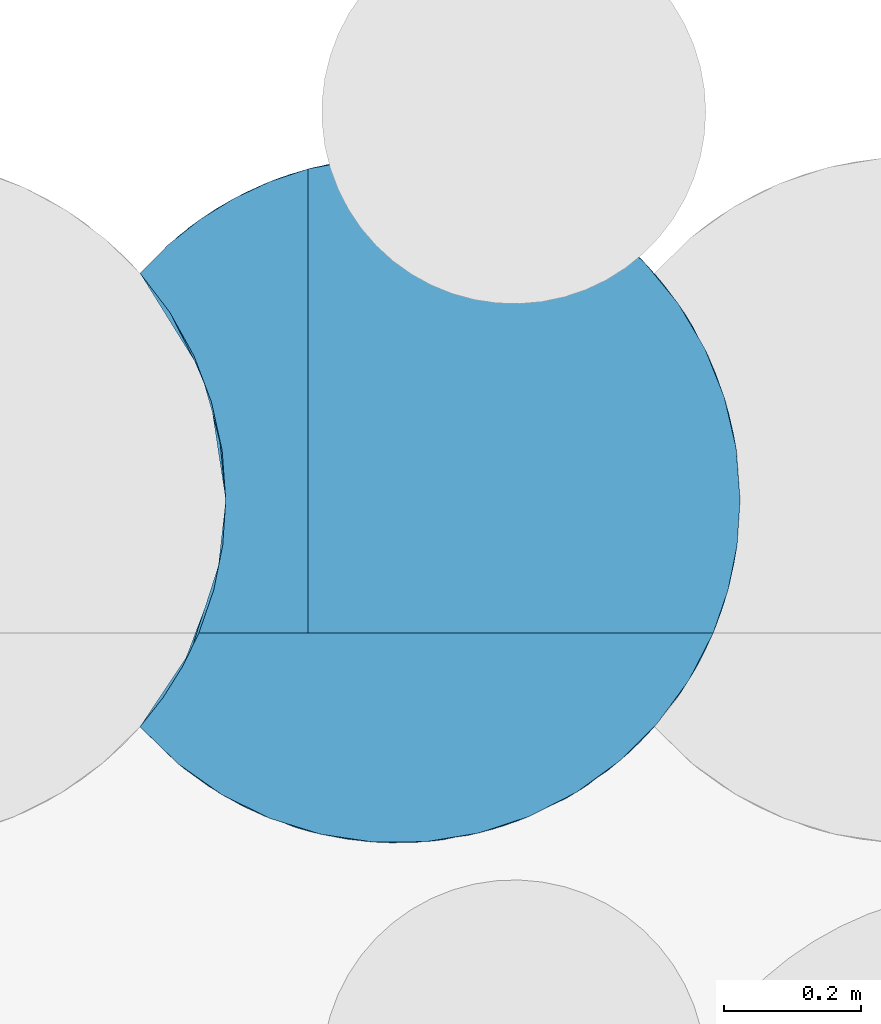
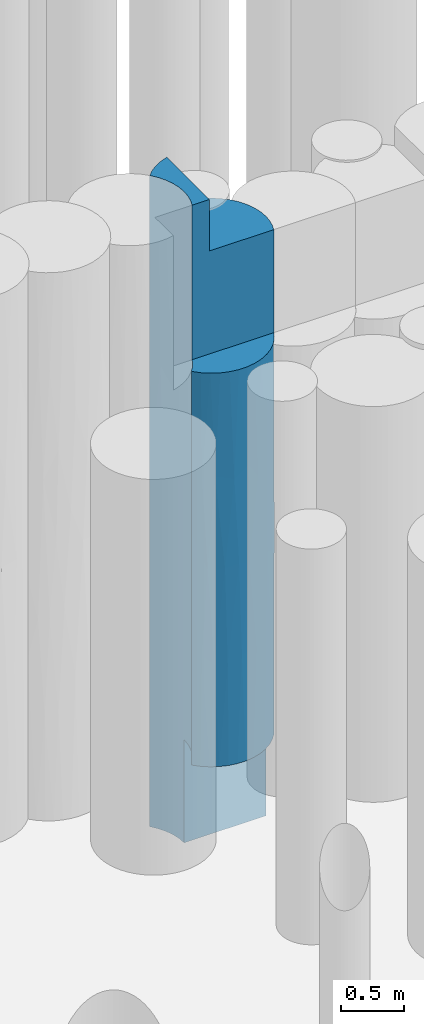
# One storey, part 90 of 104: 1 pile.
"""IFC2X3 building model written with IfcOpenShell, lengths in millimetres."""

import ifcopenshell
import ifcopenshell.guid

model = None  # the IFC model being written
_history = None  # IfcOwnerHistory: only IFC2X3 demands one
_inside = {}  # id of a spatial element -> (the spatial element, [elements in it])
_under = {}  # id of a project, library or spatial element -> (it, [spatial elements below it])
_declared = {}  # id of a project -> (the project, [libraries it declares])
_typed = {}  # id of a type object -> (the type object, [elements of that type])
_made_of = {}  # id of a material, layer set ... -> (it, [elements and type objects made of it])


def new_model(schema):
    """Start an empty IFC model of exactly this schema.

    Asked for "IFC4X3", IfcOpenShell would pick the latest addendum, in which some entities
    have other attributes; the version numbers below select the first issue.
    IFC2X3 requires an IfcOwnerHistory on every rooted entity: one is made here for all.
    """
    global model, _history
    if schema == "IFC4X3":
        model = ifcopenshell.file(schema_version=(4, 3, 0, 0))
    else:
        model = ifcopenshell.file(schema=schema)
    _inside.clear()
    _under.clear()
    _declared.clear()
    _typed.clear()
    _made_of.clear()
    _history = None
    if model.schema == "IFC2X3":
        org = make("IfcOrganization", Name="unknown")
        user = make(
            "IfcPersonAndOrganization",
            ThePerson=make("IfcPerson", FamilyName="unknown"),
            TheOrganization=org,
        )
        app = make(
            "IfcApplication",
            ApplicationDeveloper=org,
            Version="unknown",
            ApplicationFullName="unknown",
            ApplicationIdentifier="unknown",
        )
        _history = make(
            "IfcOwnerHistory",
            OwningUser=user,
            OwningApplication=app,
            ChangeAction="ADDED",
            CreationDate=0,
        )
    return model


def make(cls, **values):
    """One entity of the class cls with the attributes given. An attribute that is None is left unset."""
    return model.create_entity(
        cls, **{name: value for name, value in values.items() if value is not None}
    )


def entity(cls, *values):
    """Any entity or typed value of the class cls, its attributes in the order of the schema. None: left unset."""
    e = model.create_entity(cls)
    for i, value in enumerate(values):
        if value is not None:
            e[i] = value
    return e


def rooted(cls, **values):
    """An entity with a GlobalId (a new one), such as an element, a storey or a relation."""
    return make(cls, GlobalId=ifcopenshell.guid.new(), OwnerHistory=_history, **values)


def si_unit(unit_type, name, prefix=None):
    """IfcSIUnit, for example si_unit("LENGTHUNIT", "METRE", prefix="MILLI")."""
    return make("IfcSIUnit", UnitType=unit_type, Prefix=prefix, Name=name)


def converted_unit(unit_type, name, factor, base, dimensions=None, offset=None):
    """IfcConversionBasedUnit, such as the inch: factor (a typed value) times the base unit."""
    return make(
        "IfcConversionBasedUnit"
        if offset is None
        else "IfcConversionBasedUnitWithOffset",
        ConversionOffset=offset,
        Dimensions=None
        if dimensions is None
        else entity("IfcDimensionalExponents", *dimensions),
        UnitType=unit_type,
        Name=name,
        ConversionFactor=make(
            "IfcMeasureWithUnit", ValueComponent=factor, UnitComponent=base
        ),
    )


def derived_unit(unit_type, elements):
    """IfcDerivedUnit: a product of units, each with its exponent."""
    return make(
        "IfcDerivedUnit",
        Elements=[
            make("IfcDerivedUnitElement", Unit=unit, Exponent=power)
            for unit, power in elements
        ],
        UnitType=unit_type,
    )


def assignment(units):
    """IfcUnitAssignment: the units of a project."""
    return None if units is None else make("IfcUnitAssignment", Units=units)


def point(xyz):
    """IfcCartesianPoint."""
    return None if xyz is None else make("IfcCartesianPoint", Coordinates=xyz)


def direction(xyz):
    """IfcDirection."""
    return None if xyz is None else make("IfcDirection", DirectionRatios=xyz)


def frame(location, z_axis=None, x_axis=None):
    """IfcAxis2Placement3D, a coordinate frame: its origin and axes. An axis left out is left unset."""
    return make(
        "IfcAxis2Placement3D",
        Location=point(location),
        Axis=direction(z_axis),
        RefDirection=direction(x_axis),
    )


def origin():
    """The frame at (0, 0, 0) with its axes left unset."""
    return frame((0.0, 0.0, 0.0))


def place(relative_to, where):
    """IfcLocalPlacement: puts the frame where relative to a parent placement (None: the world)."""
    return make(
        "IfcLocalPlacement", PlacementRelTo=relative_to, RelativePlacement=where
    )


def context(
    kind, dimensions, precision=None, world=None, true_north=None, identifier=None
):
    """IfcGeometricRepresentationContext, for example the 3D "Model" context."""
    return make(
        "IfcGeometricRepresentationContext",
        ContextIdentifier=identifier,
        ContextType=kind,
        CoordinateSpaceDimension=dimensions,
        Precision=precision,
        WorldCoordinateSystem=world,
        TrueNorth=true_north,
    )


def subcontext(parent, identifier, kind, view, scale=None):
    """IfcGeometricRepresentationSubContext, for example "Body" below "Model"."""
    return make(
        "IfcGeometricRepresentationSubContext",
        ContextIdentifier=identifier,
        ContextType=kind,
        ParentContext=parent,
        TargetScale=scale,
        TargetView=view,
    )


def project(units=None, contexts=None):
    """IfcProject with its units and contexts."""
    return rooted(
        "IfcProject",
        Name="project",
        RepresentationContexts=contexts,
        UnitsInContext=assignment(units),
    )


def spatial(cls, under=None, at=None, **own):
    """A site, building, storey or space (cls), placed at a placement, below another one or the project."""
    s = rooted(cls, ObjectPlacement=at, **own)
    if under is not None:
        _under.setdefault(under.id(), (under, []))[1].append(s)
    return s


def faces_of(points, faces, orient=None, outer=None):
    """IfcFace entities. A face is a list of loops; a loop is a list of indices into points, from 0.

    orient and outer hold one flag for each loop. By default every Orientation is true, the
    first loop of a face is its IfcFaceOuterBound and the others are IfcFaceBound.
    """
    made = []
    for i, loops in enumerate(faces):
        bounds = []
        for j, loop in enumerate(loops):
            is_outer = j == 0 if outer is None else outer[i][j]
            bounds.append(
                make(
                    "IfcFaceOuterBound" if is_outer else "IfcFaceBound",
                    Bound=make("IfcPolyLoop", Polygon=[points[k] for k in loop]),
                    Orientation=True if orient is None else orient[i][j],
                )
            )
        made.append(make("IfcFace", Bounds=bounds))
    return made


def faceted_brep(points, faces, orient=None, outer=None, voids=None):
    """IfcFacetedBrep: a solid bounded by flat faces; with voids (closed shells), ...WithVoids."""
    shared = [point(p) for p in points]
    hull = make("IfcClosedShell", CfsFaces=faces_of(shared, faces, orient, outer))
    if voids is None:
        return make("IfcFacetedBrep", Outer=hull)
    return make(
        "IfcFacetedBrepWithVoids",
        Outer=hull,
        Voids=[
            make(cls, CfsFaces=faces_of(shared, fs, o, b)) for cls, fs, o, b in voids
        ],
    )


def shape(context_of_items, identifier, shape_type, items):
    """IfcShapeRepresentation: the items that make up one representation, for example the "Body"."""
    return make(
        "IfcShapeRepresentation",
        ContextOfItems=context_of_items,
        RepresentationIdentifier=identifier,
        RepresentationType=shape_type,
        Items=items,
    )


def source(mapping_origin, context_of_items, identifier, shape_type, items):
    """IfcRepresentationMap: a shape defined once, which mapped items show again and again."""
    return make(
        "IfcRepresentationMap",
        MappingOrigin=mapping_origin,
        MappedRepresentation=shape(context_of_items, identifier, shape_type, items),
    )


def transform(
    local_origin,
    x_axis=None,
    y_axis=None,
    z_axis=None,
    scale=None,
    scale2=None,
    scale3=None,
    uniform=True,
):
    """IfcCartesianTransformationOperator3D, or its non-uniform kind. x_axis, y_axis, z_axis: its Axis1, 2, 3."""
    if uniform:
        return make(
            "IfcCartesianTransformationOperator3D",
            Axis1=direction(x_axis),
            Axis2=direction(y_axis),
            LocalOrigin=point(local_origin),
            Scale=scale,
            Axis3=direction(z_axis),
        )
    return make(
        "IfcCartesianTransformationOperator3DnonUniform",
        Axis1=direction(x_axis),
        Axis2=direction(y_axis),
        LocalOrigin=point(local_origin),
        Scale=scale,
        Axis3=direction(z_axis),
        Scale2=scale2,
        Scale3=scale3,
    )


def mapped(mapping_source, mapping_target):
    """IfcMappedItem: shows the shape of a source again, moved by a transform."""
    return make(
        "IfcMappedItem", MappingSource=mapping_source, MappingTarget=mapping_target
    )


def material(Name=None, Category=None):
    """IfcMaterial."""
    return make("IfcMaterial", Name=Name, Category=Category)


def made_of(thing, what):
    """Note that an element or type object is made of a material, layer set ...; save() writes the relation."""
    if what is not None:
        _made_of.setdefault(what.id(), (what, []))[1].append(thing)
    return thing


def element(
    cls,
    number,
    at=None,
    inside=None,
    cuts=None,
    type_object=None,
    material=None,
    context=None,
    identifier="Body",
    shape_type=None,
    held_by="IfcProductDefinitionShape",
    body=None,
    shapes=None,
    **own,
):
    """One element of the class cls, such as IfcWall. Its Tag is "e" and its number.

    at: its placement. inside: the storey or other place that contains it. cuts: it is an
    opening in that element (IfcRelVoidsElement). A single representation is given by context,
    identifier, shape_type and body (its items); several are given by shapes. held_by: the class
    of the entity that holds the representations. save() writes the other relations.
    """
    e = rooted(cls, Tag="e%d" % number, ObjectPlacement=at, **own)
    if body is not None:
        shapes = [shape(context, identifier, shape_type, body)]
    if shapes is not None:
        e.Representation = make(held_by, Representations=shapes)
    if inside is not None:
        _inside.setdefault(inside.id(), (inside, []))[1].append(e)
    if cuts is not None:
        rooted(
            "IfcRelVoidsElement", RelatingBuildingElement=cuts, RelatedOpeningElement=e
        )
    if type_object is not None:
        _typed.setdefault(type_object.id(), (type_object, []))[1].append(e)
    return made_of(e, material)


def aggregate(whole, parts):
    """IfcRelAggregates: a whole, such as a stair, and the parts it consists of."""
    return rooted("IfcRelAggregates", RelatingObject=whole, RelatedObjects=parts)


def save(model, path):
    """Write the relations noted so far, then the file.

    IfcRelAggregates (storeys below a building ...), IfcRelContainedInSpatialStructure (elements
    in a storey), IfcRelDefinesByType, IfcRelAssociatesMaterial and IfcRelDeclares: one each for
    every whole, place, type object, material and project.
    """
    for whole, parts in _under.values():
        aggregate(whole, parts)
    for where, things in _inside.values():
        rooted(
            "IfcRelContainedInSpatialStructure",
            RelatedElements=things,
            RelatingStructure=where,
        )
    for kind, things in _typed.values():
        rooted("IfcRelDefinesByType", RelatedObjects=things, RelatingType=kind)
    for what, things in _made_of.values():
        rooted("IfcRelAssociatesMaterial", RelatedObjects=things, RelatingMaterial=what)
    for by, libraries in _declared.values():
        rooted("IfcRelDeclares", RelatingContext=by, RelatedDefinitions=libraries)
    model.write(path)


model = new_model("IFC2X3")

# Units and contexts
model_context = context("Model", 3, precision=0.01, world=origin(), true_north=direction((6.12303176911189e-17, 1.0)))
body_context = subcontext(model_context, "Body", "Model", "MODEL_VIEW")
ifc_project = project(units=[si_unit("LENGTHUNIT", "METRE", prefix="MILLI"), si_unit("AREAUNIT", "SQUARE_METRE", prefix="MILLI"), si_unit("VOLUMEUNIT", "CUBIC_METRE"), converted_unit("PLANEANGLEUNIT", "DEGREE", entity("IfcRatioMeasure", 0.0174532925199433), si_unit("PLANEANGLEUNIT", "RADIAN"), dimensions=[0, 0, 0, 0, 0, 0, 0]), si_unit("MASSUNIT", "GRAM", prefix="KILO"), derived_unit("MASSDENSITYUNIT", [(si_unit("MASSUNIT", "GRAM", prefix="KILO"), 1), (si_unit("LENGTHUNIT", "METRE"), -3)]), derived_unit("MOMENTOFINERTIAUNIT", [(si_unit("LENGTHUNIT", "METRE"), 4)]), si_unit("TIMEUNIT", "SECOND"), si_unit("FREQUENCYUNIT", "HERTZ"), si_unit("THERMODYNAMICTEMPERATUREUNIT", "DEGREE_CELSIUS"), derived_unit("THERMALTRANSMITTANCEUNIT", [(si_unit("MASSUNIT", "GRAM", prefix="KILO"), 1), (si_unit("THERMODYNAMICTEMPERATUREUNIT", "KELVIN"), -1), (si_unit("TIMEUNIT", "SECOND"), -3)]), derived_unit("VOLUMETRICFLOWRATEUNIT", [(si_unit("LENGTHUNIT", "METRE"), 3), (si_unit("TIMEUNIT", "SECOND"), -1)]), si_unit("ELECTRICCURRENTUNIT", "AMPERE"), si_unit("ELECTRICVOLTAGEUNIT", "VOLT"), si_unit("POWERUNIT", "WATT"), si_unit("FORCEUNIT", "NEWTON", prefix="KILO"), si_unit("ILLUMINANCEUNIT", "LUX"), si_unit("LUMINOUSFLUXUNIT", "LUMEN"), si_unit("LUMINOUSINTENSITYUNIT", "CANDELA"), derived_unit("USERDEFINED", [(si_unit("MASSUNIT", "GRAM", prefix="KILO"), -1), (si_unit("LENGTHUNIT", "METRE"), -2), (si_unit("TIMEUNIT", "SECOND"), 3), (si_unit("LUMINOUSFLUXUNIT", "LUMEN"), 1)]), derived_unit("LINEARVELOCITYUNIT", [(si_unit("LENGTHUNIT", "METRE"), 1), (si_unit("TIMEUNIT", "SECOND"), -1)]), si_unit("PRESSUREUNIT", "PASCAL"), derived_unit("USERDEFINED", [(si_unit("LENGTHUNIT", "METRE"), -2), (si_unit("MASSUNIT", "GRAM", prefix="KILO"), 1), (si_unit("TIMEUNIT", "SECOND"), -2)]), derived_unit("LINEARFORCEUNIT", [(si_unit("MASSUNIT", "GRAM", prefix="KILO"), 1), (si_unit("LENGTHUNIT", "METRE"), 1), (si_unit("TIMEUNIT", "SECOND"), -2), (si_unit("LENGTHUNIT", "METRE"), -1)]), derived_unit("PLANARFORCEUNIT", [(si_unit("MASSUNIT", "GRAM", prefix="KILO"), 1), (si_unit("LENGTHUNIT", "METRE"), 1), (si_unit("TIMEUNIT", "SECOND"), -2), (si_unit("LENGTHUNIT", "METRE"), -2)])], contexts=[model_context])

# Site, building, storey
site_placement = place(None, origin())
site = spatial("IfcSite", under=ifc_project, at=site_placement, Name="Theater aan de Parade", CompositionType="ELEMENT")
building_placement = place(site_placement, origin())
building = spatial("IfcBuilding", under=site, at=building_placement, Name="Theater aan de Parade", CompositionType="ELEMENT")
storey_placement = place(building_placement, frame((0.0, 0.0, -5520.0)))
storey = spatial("IfcBuildingStorey", under=building, at=storey_placement, Name="-2 kelder", CompositionType="ELEMENT", Elevation=-5520.0)

# Pile
ifc_material = material(Name="00_PBT_MAT_grout")
shared_shape = source(origin(), body_context, "Body", "Brep", [
    faceted_brep([(480.905919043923, 989.723235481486, 0.0), (553.359276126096, 968.436955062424, 0.0), (621.78105669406, 936.481718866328, 0.0), (684.610488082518, 894.586162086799, 0.0), (740.414269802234, 843.705650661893, 0.0), (787.919260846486, 785.000514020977, 0.0), (826.041519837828, 719.809604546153, 0.0), (853.911036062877, 649.619785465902, 0.0), (870.891488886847, 576.032688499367, 0.0), (876.595272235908, 500.724985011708, 0.0), (126.595272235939, 500.724985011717, 0.0), (121.380912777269, 572.746994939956, 0.0), (105.846592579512, 643.266810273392, 0.0), (80.3163177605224, 710.813568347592, 0.0), (45.3225844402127, 773.978416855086, 0.0), (1.5952722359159, 831.443898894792, 0.0), (55.6837113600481, 884.151340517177, 0.0), (117.086743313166, 928.106925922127, 0.0), (184.40902194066, 962.314028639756, 0.0), (256.11503470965, 985.992449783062, 0.0), (330.569297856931, 998.602088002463, 0.0), (406.073640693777, 999.85525437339, 0.0), (786.343657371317, 787.266885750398, 1179.57880348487), (713.474343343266, 870.200953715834, 1504.83355329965), (808.212941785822, 753.125831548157, 2179.66740348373), (155.906706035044, 949.385833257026, 3568.77741003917), (70.7863932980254, 896.301690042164, 3505.0406236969), (112.899231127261, 925.535999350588, 4983.97076994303), (876.595272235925, 500.724985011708, 1000.0), (473.690647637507, 991.206878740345, 5820.0), (435.96652097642, 997.187526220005, 4818.39059756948), (397.895933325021, 1000.27106080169, 5820.0), (867.260557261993, 596.889313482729, 876.38061592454), (841.303362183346, 685.241626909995, 1172.83635938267), (496.534324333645, 986.126492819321, 887.589225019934), (368.297776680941, 1000.65613183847, 1394.92122562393), (588.174311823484, 953.752920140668, 984.921395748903), (283.829339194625, 992.044109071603, 4382.68113115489), (205.331864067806, 970.479011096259, 4961.31517107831), (246.595272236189, 983.529293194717, 5820.0), (653.987855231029, 916.721805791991, 2907.48603340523), (618.19634833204, 938.479391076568, 1959.82687409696), (569.768065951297, 961.902035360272, 2712.76598126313), (85.5542207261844, 907.289993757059, 984.59234370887), (1.5952722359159, 831.443898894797, 1561.53747364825), (1.59527223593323, 831.443898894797, 1598.46525981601), (840.547254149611, 687.134637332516, 4815.82677635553), (824.964017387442, 722.00640847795, 5820.0), (853.423095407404, 651.175066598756, 5820.0), (876.595272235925, 500.724985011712, 5820.0), (876.595272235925, 500.724985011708, 4258.46227160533), (869.418934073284, 585.13374245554, 4846.66538639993), (806.764317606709, 755.586893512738, 4016.66546820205), (860.314555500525, 627.277958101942, 3598.62982996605), (730.654958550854, 853.771353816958, 3719.20646230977), (742.49331848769, 841.486807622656, 2623.53882459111), (762.955005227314, 818.098828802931, 4815.82677680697), (77.7232430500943, 901.568483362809, 2582.98356866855), (184.425526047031, 962.320899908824, 2655.94352101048), (860.047477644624, 628.294437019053, 2296.1096926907), (796.630464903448, 771.963693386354, 3095.45106600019), (786.054364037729, 787.680124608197, 5820.0), (649.551572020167, 919.646049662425, 4407.04655355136), (876.595272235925, 500.724985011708, 1848.46227160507), (219.814373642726, 975.508883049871, 984.592308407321), (389.10120135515, 1000.56856228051, 3729.77589630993), (532.635706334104, 975.752755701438, 4914.64407478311), (510.848172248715, 982.364018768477, 4022.45321415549), (477.969882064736, 990.340332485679, 2883.93922704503), (384.982625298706, 1000.65463237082, 2380.42428967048), (616.776907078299, 939.259798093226, 5820.0), (680.733398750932, 897.587681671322, 5820.0), (517.535032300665, 980.449889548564, 1764.83896413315), (321.60474336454, 997.691826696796, 5820.0), (252.067107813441, 984.969485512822, 1958.99081912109), (150.101177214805, 946.48324339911, 1764.1026239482), (42.7869278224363, 872.977572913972, 6320.0), (1.5952722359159, 831.443898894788, 4758.46525981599), (1.5952722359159, 831.443898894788, 6320.0), (1.59527223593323, 831.443898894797, 2342.30678423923), (1.59527223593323, 831.443898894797, 3123.07552106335), (1.59527223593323, 831.443898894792, 3196.92532692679), (138.182451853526, 940.223935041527, 6320.0), (88.5178266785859, 909.395249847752, 6320.0), (737.601041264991, 846.665492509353, 5820.0), (246.595272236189, 983.529293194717, 6320.0), (191.101197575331, 965.043785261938, 6320.0), (547.222263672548, 970.710548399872, 5820.0), (293.103772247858, 993.704872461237, 2905.64860339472), (870.768274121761, 576.83703535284, 5820.0), (876.595272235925, 500.724985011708, 3410.0), (876.595272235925, 500.724985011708, 2696.92454321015), (1.59527223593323, 831.443898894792, 3922.30692768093), (1.5952722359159, 831.443898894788, 4721.53776053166), (876.595272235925, 500.724985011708, 2561.53770592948), (1.5952722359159, 170.006071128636, 4820.0), (1.5952722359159, 170.006071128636, 3258.45336803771), (65.7086118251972, 109.126358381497, 3790.38026350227), (226.873470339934, 23.6679841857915, 2916.48393480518), (102.00985284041, 82.8699294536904, 2910.0), (150.100663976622, 54.9669874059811, 1991.82389668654), (64.6682914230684, 109.954517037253, 2072.58134997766), (1.5952722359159, 170.006071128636, 2561.53407802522), (302.524441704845, 6.24190940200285, 3767.79536219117), (154.831860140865, 52.5944358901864, 3816.33835144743), (406.083063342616, 1.5952722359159, 1000.0), (368.30590108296, 0.793703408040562, 2045.73832490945), (330.576079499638, 2.84725514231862, 1000.0), (517.547167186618, 21.0036457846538, 2045.73832478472), (480.917386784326, 11.7291809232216, 1000.0), (850.662772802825, 341.791021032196, 2956.44052538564), (861.508321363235, 378.826113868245, 3834.23114693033), (344.186401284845, 1.77642545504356, 2935.54362239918), (431.4013677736, 3.7377699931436, 3860.75460542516), (264.360232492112, 13.4844942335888, 4820.0), (341.135731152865, 1.98394905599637, 4820.0), (248.599938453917, 17.3853585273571, 1968.18399287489), (184.409890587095, 39.1355797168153, 1000.0), (256.118861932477, 15.4565700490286, 1000.0), (684.622701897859, 106.873359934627, 1000.0), (628.867381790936, 69.032058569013, 1967.10395614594), (621.794008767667, 64.9755391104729, 1000.0), (553.371967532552, 33.0178116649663, 1000.0), (841.307430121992, 316.218588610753, 2043.37036084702), (808.219743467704, 248.335770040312, 2895.90017392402), (859.062113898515, 369.478092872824, 5820.0), (837.43505350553, 306.748965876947, 4820.0), (868.23952280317, 409.697896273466, 4780.77998665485), (1.5952722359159, 170.006071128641, 1000.0), (55.6798336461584, 117.301875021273, 1000.0), (872.192599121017, 434.518568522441, 5820.0), (826.047002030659, 281.651612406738, 1000.0), (853.913874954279, 351.839285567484, 1000.0), (756.020367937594, 175.092374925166, 4820.0), (729.59569272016, 146.61948782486, 3681.89305764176), (820.985454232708, 271.558307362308, 3875.66302458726), (190.290405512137, 36.7309153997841, 4820.0), (57.30186406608, 115.950090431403, 4820.0), (120.711842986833, 71.1628001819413, 4820.0), (443.691820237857, 5.24738385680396, 2901.16454376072), (532.726165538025, 25.7269385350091, 3709.65477491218), (495.379846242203, 15.0396702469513, 4820.0), (418.766079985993, 2.50653596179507, 4820.0), (713.485761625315, 131.25942753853, 2044.3529119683), (792.582410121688, 223.317881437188, 1965.80789176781), (740.42483092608, 157.755522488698, 1000.0), (787.927466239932, 216.461328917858, 1000.0), (569.130100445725, 39.2812290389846, 4820.0), (750.380941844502, 168.634224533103, 2815.59214578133), (867.735228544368, 407.015095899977, 2295.70145962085), (565.476980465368, 37.7739073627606, 2843.12848273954), (654.000489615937, 84.7365892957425, 2898.08494075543), (649.513725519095, 81.7792631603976, 3862.3180825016), (638.238940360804, 74.6468338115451, 4820.0), (701.040351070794, 120.283937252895, 4820.0), (117.08495382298, 73.3441306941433, 1000.0), (837.435053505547, 306.748965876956, 5820.0), (801.853566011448, 237.750873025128, 4820.0), (870.892400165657, 425.423263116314, 1000.0), (80.3163177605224, 710.813568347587, 6320.0), (105.846592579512, 643.266810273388, 6320.0), (121.380912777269, 572.746994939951, 6320.0), (126.595272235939, 500.724985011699, 6320.0), (122.192599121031, 434.518568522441, 6320.0), (109.06211389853, 369.478092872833, 6320.0), (87.4350535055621, 306.74896587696, 6320.0), (246.595272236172, 306.74896587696, 6320.0), (45.3225844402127, 773.978416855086, 6320.0), (246.595272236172, 306.74896587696, 5820.0), (87.4350535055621, 306.74896587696, 4820.0), (63.8150080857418, 258.157669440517, 4820.0), (35.0899489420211, 212.398609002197, 4820.0), (126.595272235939, 500.724985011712, 1000.0), (126.595272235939, 500.724985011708, 4758.46227344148), (103.716989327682, 650.240425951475, 929.57030215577), (117.506504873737, 595.625784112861, 2931.36424013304), (119.581500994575, 584.179033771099, 1600.95905710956), (126.595272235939, 500.724985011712, 2098.46227344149), (63.9612327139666, 743.028547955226, 1002.25156593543), (57.034257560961, 755.130723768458, 3976.06843691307), (59.0094113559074, 751.758871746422, 4844.99935350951), (94.3024450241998, 677.501681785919, 5355.1793706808), (52.6084708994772, 762.474396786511, 1951.92213360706), (94.3024450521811, 677.50168171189, 1823.06883573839), (89.4529642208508, 689.835420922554, 3078.94407721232), (119.451546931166, 584.9431095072, 3842.56157073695), (94.3024444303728, 677.501683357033, 4334.81933337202), (116.899441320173, 598.713871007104, 4844.99935891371), (126.595272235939, 500.724985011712, 3196.92454688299), (126.595272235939, 500.724985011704, 3660.0), (126.595272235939, 500.724985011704, 2561.53770595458), (105.846592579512, 358.183159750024, 1000.0), (80.3163177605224, 290.636401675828, 1000.0), (63.9612331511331, 258.421422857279, 1953.95952443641), (114.888484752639, 393.162265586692, 1953.95952436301), (94.3024456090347, 323.948289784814, 2715.05844103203), (53.5045692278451, 240.439656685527, 2910.0), (45.3225844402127, 227.471553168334, 1000.0), (76.2818326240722, 282.134048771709, 3740.5717726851), (114.198723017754, 390.07746002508, 4066.45910927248), (119.287985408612, 415.555211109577, 3110.76885283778), (121.380912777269, 428.702975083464, 1000.0), (116.858395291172, 402.530941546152, 4998.50409914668)], [[[0, 1, 2, 3, 4, 5, 6, 7, 8, 9, 10, 11, 12, 13, 14, 15, 16, 17, 18, 19, 20, 21]], [[22, 23, 24]], [[25, 26, 27]], [[9, 8, 28]], [[29, 30, 31]], [[32, 7, 33]], [[34, 21, 35]], [[36, 2, 1]], [[37, 38, 39]], [[22, 24, 33]], [[40, 41, 42]], [[43, 15, 44, 45]], [[4, 3, 23]], [[1, 34, 36]], [[46, 47, 48]], [[49, 50, 51]], [[52, 46, 53]], [[46, 48, 51]], [[6, 33, 7]], [[54, 55, 40]], [[46, 52, 56]], [[3, 2, 36]], [[38, 25, 27]], [[57, 25, 58]], [[22, 4, 23]], [[53, 59, 60]], [[46, 61, 47]], [[62, 56, 54]], [[63, 32, 59]], [[64, 18, 17]], [[37, 30, 65]], [[30, 66, 67]], [[65, 68, 69]], [[62, 70, 71]], [[55, 23, 40]], [[72, 36, 34]], [[73, 30, 37]], [[70, 62, 66]], [[21, 20, 35]], [[18, 64, 19]], [[74, 64, 75]], [[76, 77, 78]], [[57, 45, 79, 80, 81]], [[74, 35, 64]], [[3, 36, 23]], [[41, 36, 72]], [[75, 64, 43]], [[43, 64, 17]], [[8, 32, 28]], [[65, 30, 67]], [[82, 27, 83]], [[84, 61, 56]], [[30, 29, 66]], [[43, 17, 16]], [[23, 36, 41]], [[85, 39, 86]], [[34, 1, 0]], [[87, 66, 29]], [[6, 5, 22]], [[20, 19, 64]], [[38, 86, 39]], [[27, 76, 83]], [[73, 37, 39]], [[40, 67, 62]], [[71, 84, 56]], [[38, 82, 86]], [[35, 74, 69]], [[27, 77, 76]], [[37, 88, 25]], [[59, 33, 24]], [[46, 56, 61]], [[20, 64, 35]], [[73, 31, 30]], [[51, 48, 89]], [[46, 51, 53]], [[54, 56, 52]], [[71, 56, 62]], [[15, 43, 16]], [[57, 43, 45]], [[53, 50, 90, 91]], [[53, 91, 59]], [[68, 65, 67]], [[88, 37, 65]], [[55, 60, 24]], [[40, 62, 54]], [[59, 24, 60]], [[63, 28, 32]], [[88, 74, 58]], [[25, 57, 26]], [[42, 67, 40]], [[72, 35, 69]], [[42, 72, 68]], [[23, 41, 40]], [[58, 74, 75]], [[74, 88, 69]], [[57, 58, 75]], [[88, 58, 25]], [[57, 75, 43]], [[57, 81, 26]], [[60, 54, 52]], [[23, 55, 24]], [[72, 42, 41]], [[67, 42, 68]], [[6, 22, 33]], [[4, 22, 5]], [[21, 34, 0]], [[35, 72, 34]], [[70, 66, 87]], [[62, 67, 66]], [[54, 60, 55]], [[53, 60, 52]], [[26, 81, 92, 93, 77]], [[27, 26, 77]], [[25, 38, 37]], [[38, 27, 82]], [[7, 32, 8]], [[59, 32, 33]], [[49, 51, 89]], [[53, 51, 50]], [[59, 91, 94, 63]], [[65, 69, 88]], [[72, 69, 68]], [[95, 96, 97]], [[98, 99, 100]], [[101, 99, 102]], [[103, 104, 98]], [[105, 106, 107]], [[99, 98, 104]], [[108, 106, 105, 109]], [[110, 90, 111]], [[112, 113, 103]], [[114, 103, 115]], [[98, 116, 112]], [[116, 117, 118]], [[119, 120, 121]], [[109, 122, 108]], [[123, 110, 124]], [[125, 126, 127]], [[128, 129, 101]], [[97, 96, 99]], [[49, 130, 127]], [[107, 106, 116]], [[96, 102, 99]], [[97, 99, 104]], [[103, 114, 104]], [[123, 131, 132]], [[133, 134, 135]], [[104, 114, 136]], [[137, 97, 138]], [[113, 139, 140]], [[90, 50, 111]], [[113, 141, 142]], [[135, 111, 126]], [[119, 143, 120]], [[144, 145, 146]], [[140, 147, 141]], [[108, 139, 106]], [[131, 144, 146]], [[134, 148, 124]], [[149, 90, 110]], [[134, 124, 135]], [[131, 123, 144]], [[112, 106, 139]], [[150, 151, 152]], [[149, 28, 63, 94, 91, 90]], [[120, 143, 151]], [[120, 122, 121]], [[116, 98, 100]], [[123, 124, 144]], [[113, 115, 103]], [[134, 152, 151]], [[117, 116, 100]], [[153, 152, 154]], [[134, 133, 154]], [[100, 101, 155]], [[156, 126, 125]], [[127, 111, 50]], [[117, 100, 155]], [[150, 152, 140]], [[150, 139, 108]], [[111, 127, 126]], [[104, 136, 138]], [[126, 157, 135]], [[119, 145, 143]], [[148, 151, 143]], [[147, 140, 152]], [[149, 132, 158]], [[101, 100, 99]], [[135, 157, 133]], [[135, 124, 110]], [[138, 97, 104]], [[95, 97, 137]], [[128, 101, 102]], [[155, 101, 129]], [[150, 120, 151]], [[122, 120, 108]], [[148, 144, 124]], [[145, 144, 143]], [[110, 123, 149]], [[135, 110, 111]], [[132, 149, 123]], [[28, 149, 158]], [[113, 112, 139]], [[98, 112, 103]], [[141, 113, 140]], [[113, 142, 115]], [[49, 127, 50]], [[125, 127, 130]], [[107, 116, 118]], [[112, 116, 106]], [[154, 152, 134]], [[152, 153, 147]], [[139, 150, 140]], [[120, 150, 108]], [[151, 148, 134]], [[144, 148, 143]], [[159, 160, 161, 162, 163, 164, 165, 166, 85, 86, 82, 83, 76, 78, 167]], [[70, 87, 29, 31, 73, 39, 168, 156, 125, 130, 49, 89, 48, 47, 61, 84, 71]], [[85, 166, 168, 39]], [[168, 166, 165, 169, 126, 156]], [[137, 138, 136, 114, 115, 142, 141, 147, 153, 154, 133, 157, 126, 169, 170, 171, 95]], [[172, 11, 10]], [[161, 173, 162]], [[13, 12, 174]], [[175, 176, 177]], [[14, 178, 15]], [[93, 179, 180]], [[181, 160, 159]], [[13, 178, 14]], [[174, 12, 11]], [[182, 183, 184]], [[185, 186, 184]], [[159, 167, 181]], [[180, 181, 167]], [[173, 161, 187]], [[174, 178, 13]], [[183, 178, 174]], [[185, 187, 186]], [[187, 181, 186]], [[188, 185, 175]], [[15, 178, 44]], [[161, 160, 181]], [[167, 78, 77, 93]], [[186, 181, 180]], [[80, 79, 45, 44, 182]], [[181, 187, 161]], [[185, 188, 189, 173]], [[187, 185, 173]], [[184, 175, 185]], [[186, 180, 179]], [[172, 176, 174]], [[175, 184, 183]], [[175, 177, 190, 188]], [[92, 81, 80, 179, 93]], [[93, 180, 167]], [[179, 184, 186]], [[184, 179, 80]], [[183, 174, 176]], [[172, 174, 11]], [[183, 176, 175]], [[177, 176, 172]], [[44, 178, 182]], [[80, 182, 184]], [[183, 182, 178]], [[191, 192, 193, 194]], [[102, 193, 128]], [[195, 193, 196]], [[197, 128, 193]], [[96, 95, 171]], [[192, 197, 193]], [[198, 199, 200]], [[198, 96, 171]], [[194, 201, 191]], [[201, 194, 172]], [[170, 169, 198]], [[102, 196, 193]], [[200, 189, 188, 190]], [[196, 102, 96]], [[194, 190, 177, 172]], [[169, 202, 199]], [[202, 169, 164]], [[165, 164, 169]], [[96, 198, 196]], [[173, 199, 202]], [[170, 198, 171]], [[202, 163, 162]], [[195, 194, 193]], [[190, 194, 200]], [[169, 199, 198]], [[195, 196, 198]], [[195, 198, 200]], [[189, 199, 173]], [[189, 200, 199]], [[195, 200, 194]], [[173, 202, 162]], [[163, 202, 164]], [[145, 119, 121, 122, 109, 105, 107, 118, 117, 155, 129, 128, 197, 192, 191, 201, 172, 28, 158, 132, 131, 146]], [[28, 172, 10, 9]]]),
])
pile_placement = place(storey_placement, frame((81623.4047277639, 20203.2510341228, -3840.0)))
element("IfcPile", 1, at=pile_placement, inside=storey, material=ifc_material, Name="17_PBT_SFO_grondkering_rond:Ø1000 (grondkering)", ObjectType="17_PBT_SFO_grondkering_rond:Ø1000 (grondkering)", PredefinedType="NOTDEFINED", context=body_context, shape_type="MappedRepresentation", body=[
    mapped(shared_shape, transform((0.0, 0.0, 0.0), scale=1.0)),
])

save(model, "model.ifc")
